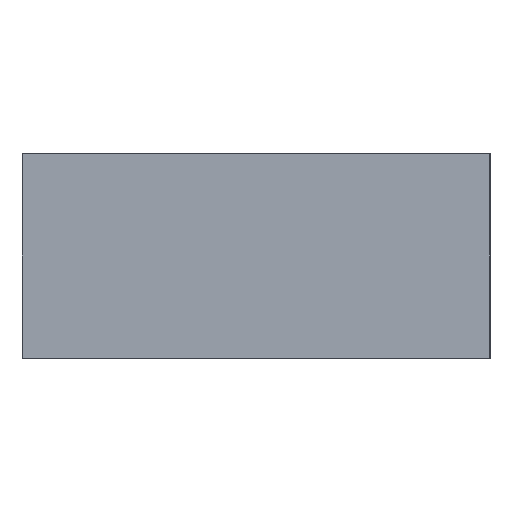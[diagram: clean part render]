
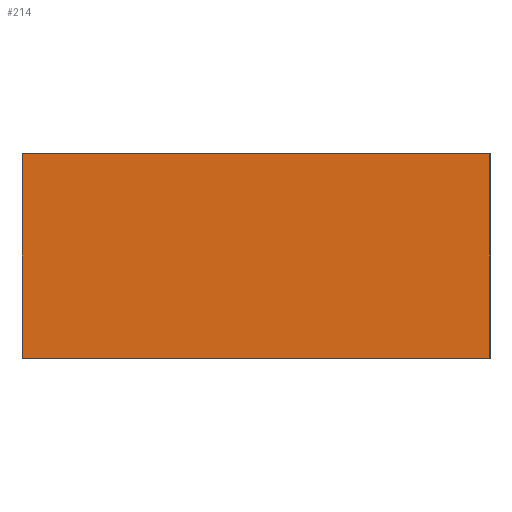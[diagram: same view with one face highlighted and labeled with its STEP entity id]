
A CAD part, left-side view. The second image highlights one B-rep face of the part: STEP entity #214.
In plain terms, the highlighted planar face has unit normal (-1, 0, 0).
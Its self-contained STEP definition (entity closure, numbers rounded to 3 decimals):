
#214=ADVANCED_FACE('',(#474),#476,.T.);
#474=FACE_BOUND('',#475,.T.);
#475=EDGE_LOOP('',(#664,#665,#666,#667));
#476=PLANE('',#477);
#477=AXIS2_PLACEMENT_3D('',#478,#479,#480);
#478=CARTESIAN_POINT('',(-1.6,-0.8,0.));
#479=DIRECTION('',(-1.,0.,0.));
#480=DIRECTION('',(0.,0.,1.));
#664=ORIENTED_EDGE('',*,*,#768,.T.);
#665=ORIENTED_EDGE('',*,*,#778,.T.);
#666=ORIENTED_EDGE('',*,*,#773,.F.);
#667=ORIENTED_EDGE('',*,*,#779,.F.);
#768=EDGE_CURVE('',#858,#856,#859,.T.);
#773=EDGE_CURVE('',#865,#867,#868,.T.);
#778=EDGE_CURVE('',#856,#867,#874,.T.);
#779=EDGE_CURVE('',#858,#865,#875,.T.);
#856=VERTEX_POINT('',#1022);
#858=VERTEX_POINT('',#1026);
#859=LINE('',#1027,#1028);
#865=VERTEX_POINT('',#1041);
#867=VERTEX_POINT('',#1045);
#868=LINE('',#1046,#1047);
#874=LINE('',#1062,#1063);
#875=LINE('',#1065,#1066);
#1022=CARTESIAN_POINT('',(-1.6,-0.8,0.7));
#1026=CARTESIAN_POINT('',(-1.6,-0.8,0.));
#1027=CARTESIAN_POINT('',(-1.6,-0.8,0.));
#1028=VECTOR('',#1029,1.);
#1029=DIRECTION('',(0.,0.,1.));
#1041=CARTESIAN_POINT('',(-1.6,0.8,0.));
#1045=CARTESIAN_POINT('',(-1.6,0.8,0.7));
#1046=CARTESIAN_POINT('',(-1.6,0.8,0.));
#1047=VECTOR('',#1048,1.);
#1048=DIRECTION('',(0.,0.,1.));
#1062=CARTESIAN_POINT('',(-1.6,-0.8,0.7));
#1063=VECTOR('',#1064,1.);
#1064=DIRECTION('',(0.,1.,0.));
#1065=CARTESIAN_POINT('',(-1.6,-0.8,0.));
#1066=VECTOR('',#1067,1.);
#1067=DIRECTION('',(0.,1.,0.));
